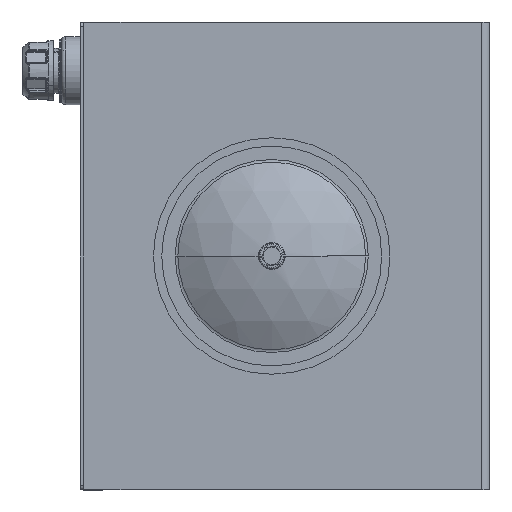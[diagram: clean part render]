
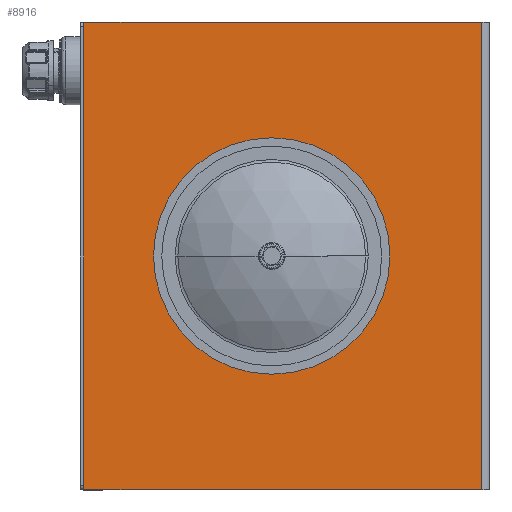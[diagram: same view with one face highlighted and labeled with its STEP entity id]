
A CAD part, left-side view. The second image highlights one B-rep face of the part: STEP entity #8916.
In plain terms, the highlighted planar face has unit normal (-1, 0, 0).
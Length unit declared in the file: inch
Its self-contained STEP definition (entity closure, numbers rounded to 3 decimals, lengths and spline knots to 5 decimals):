
#318 = DIRECTION ( 'NONE',  ( 0., -1., 0. ) ) ;
#620 = CARTESIAN_POINT ( 'NONE',  ( -20.46553, -1.73067, 1.33573 ) ) ;
#1559 = LINE ( 'NONE', #15900, #21095 ) ;
#1905 = CARTESIAN_POINT ( 'NONE',  ( -20.46553, -1.73067, 1.33573 ) ) ;
#2550 = DIRECTION ( 'NONE',  ( 0., 0., 1. ) ) ;
#2750 = CIRCLE ( 'NONE', #15046, 5. ) ;
#3066 = VERTEX_POINT ( 'NONE', #22009 ) ;
#3085 = CARTESIAN_POINT ( 'NONE',  ( -20.46553, -12.48137, -10.66427 ) ) ;
#3391 = CIRCLE ( 'NONE', #16211, 5. ) ;
#3606 = CARTESIAN_POINT ( 'NONE',  ( -20.46553, -1.73067, -3.66427 ) ) ;
#3859 = DIRECTION ( 'NONE',  ( 0., 0., 1. ) ) ;
#5858 = EDGE_LOOP ( 'NONE', ( #19601, #7469 ) ) ;
#6078 = VERTEX_POINT ( 'NONE', #3606 ) ;
#6366 = DIRECTION ( 'NONE',  ( 0., 0., 1. ) ) ;
#7271 = VERTEX_POINT ( 'NONE', #3085 ) ;
#7469 = ORIENTED_EDGE ( 'NONE', *, *, #11275, .F. ) ;
#7815 = VERTEX_POINT ( 'NONE', #21775 ) ;
#8353 = DIRECTION ( 'NONE',  ( 0., 0., -1. ) ) ;
#8387 = LINE ( 'NONE', #10715, #23433 ) ;
#8916 = ADVANCED_FACE ( 'NONE', ( #17850, #23416 ), #15495, .F. ) ;
#10543 = VERTEX_POINT ( 'NONE', #14560 ) ;
#10715 = CARTESIAN_POINT ( 'NONE',  ( -20.46553, -12.91067, 13.33573 ) ) ;
#11275 = EDGE_CURVE ( 'NONE', #6078, #11738, #3391, .T. ) ;
#11372 = EDGE_CURVE ( 'NONE', #3066, #7271, #20548, .T. ) ;
#11665 = EDGE_CURVE ( 'NONE', #10543, #7815, #8387, .T. ) ;
#11698 = EDGE_CURVE ( 'NONE', #11738, #6078, #2750, .T. ) ;
#11705 = CARTESIAN_POINT ( 'NONE',  ( -20.46553, -12.91067, -10.66427 ) ) ;
#11727 = EDGE_CURVE ( 'NONE', #7271, #10543, #21670, .T. ) ;
#11738 = VERTEX_POINT ( 'NONE', #23285 ) ;
#11739 = EDGE_CURVE ( 'NONE', #7815, #3066, #1559, .T. ) ;
#13122 = ORIENTED_EDGE ( 'NONE', *, *, #11727, .T. ) ;
#13905 = DIRECTION ( 'NONE',  ( -1., 0., 0. ) ) ;
#14267 = DIRECTION ( 'NONE',  ( 0., 0., -1. ) ) ;
#14523 = DIRECTION ( 'NONE',  ( 1., 0., 0. ) ) ;
#14560 = CARTESIAN_POINT ( 'NONE',  ( -20.46553, -12.48137, 13.33573 ) ) ;
#15046 = AXIS2_PLACEMENT_3D ( 'NONE', #620, #13905, #2550 ) ;
#15176 = DIRECTION ( 'NONE',  ( -1., 0., 0. ) ) ;
#15427 = CARTESIAN_POINT ( 'NONE',  ( -20.46553, 7.89933, -10.66427 ) ) ;
#15495 = PLANE ( 'NONE',  #20941 ) ;
#15654 = EDGE_LOOP ( 'NONE', ( #13122, #19901, #16071, #17254 ) ) ;
#15900 = CARTESIAN_POINT ( 'NONE',  ( -20.46553, 7.89933, -10.66427 ) ) ;
#16071 = ORIENTED_EDGE ( 'NONE', *, *, #11739, .T. ) ;
#16211 = AXIS2_PLACEMENT_3D ( 'NONE', #1905, #15176, #3859 ) ;
#16703 = VECTOR ( 'NONE', #6366, 39.37008 ) ;
#17254 = ORIENTED_EDGE ( 'NONE', *, *, #11372, .T. ) ;
#17850 = FACE_BOUND ( 'NONE', #5858, .T. ) ;
#19537 = CARTESIAN_POINT ( 'NONE',  ( -20.46553, -12.48137, -10.66427 ) ) ;
#19601 = ORIENTED_EDGE ( 'NONE', *, *, #11698, .F. ) ;
#19901 = ORIENTED_EDGE ( 'NONE', *, *, #11665, .T. ) ;
#19938 = VECTOR ( 'NONE', #318, 39.37008 ) ;
#20548 = LINE ( 'NONE', #11705, #19938 ) ;
#20941 = AXIS2_PLACEMENT_3D ( 'NONE', #15427, #14523, #14267 ) ;
#21095 = VECTOR ( 'NONE', #8353, 39.37008 ) ;
#21670 = LINE ( 'NONE', #19537, #16703 ) ;
#21775 = CARTESIAN_POINT ( 'NONE',  ( -20.46553, 7.89933, 13.33573 ) ) ;
#22009 = CARTESIAN_POINT ( 'NONE',  ( -20.46553, 7.89933, -10.66427 ) ) ;
#23285 = CARTESIAN_POINT ( 'NONE',  ( -20.46553, -1.73067, 6.33573 ) ) ;
#23416 = FACE_OUTER_BOUND ( 'NONE', #15654, .T. ) ;
#23433 = VECTOR ( 'NONE', #23963, 39.37008 ) ;
#23963 = DIRECTION ( 'NONE',  ( 0., 1., 0. ) ) ;
